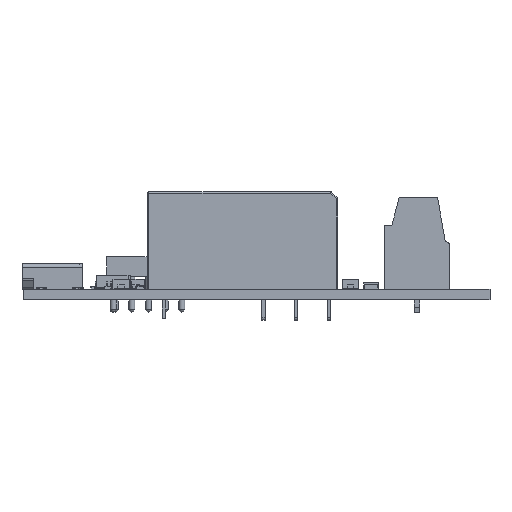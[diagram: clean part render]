
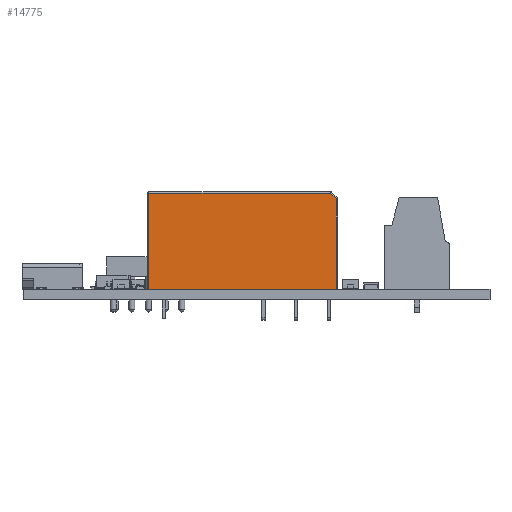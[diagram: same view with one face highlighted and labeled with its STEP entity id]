
A CAD part, front view. The second image highlights one B-rep face of the part: STEP entity #14775.
In plain terms, the highlighted planar face has unit normal (0, -1, 0) as drawn and (0, 1, 0) by its records, which use the part's own axes.
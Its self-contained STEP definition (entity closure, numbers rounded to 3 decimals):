
#14586 = VERTEX_POINT('',#14587);
#14587 = CARTESIAN_POINT('',(22.5,6.35,-0.5));
#14630 = VERTEX_POINT('',#14631);
#14631 = CARTESIAN_POINT('',(-6.1,6.35,-0.5));
#14638 = EDGE_CURVE('',#14586,#14630,#14639,.T.);
#14639 = LINE('',#14640,#14641);
#14640 = CARTESIAN_POINT('',(22.7,6.35,-0.5));
#14641 = VECTOR('',#14642,1.);
#14642 = DIRECTION('',(-1.,0.,0.));
#14775 = ADVANCED_FACE('',(#14776),#14809,.T.);
#14776 = FACE_BOUND('',#14777,.T.);
#14777 = EDGE_LOOP('',(#14778,#14786,#14794,#14802,#14808));
#14778 = ORIENTED_EDGE('',*,*,#14779,.T.);
#14779 = EDGE_CURVE('',#14630,#14780,#14782,.T.);
#14780 = VERTEX_POINT('',#14781);
#14781 = CARTESIAN_POINT('',(-6.1,6.35,13.817));
#14782 = LINE('',#14783,#14784);
#14783 = CARTESIAN_POINT('',(-6.1,6.35,-0.5));
#14784 = VECTOR('',#14785,1.);
#14785 = DIRECTION('',(0.,0.,1.));
#14786 = ORIENTED_EDGE('',*,*,#14787,.T.);
#14787 = EDGE_CURVE('',#14780,#14788,#14790,.T.);
#14788 = VERTEX_POINT('',#14789);
#14789 = CARTESIAN_POINT('',(-5.217,6.35,14.7));
#14790 = LINE('',#14791,#14792);
#14791 = CARTESIAN_POINT('',(1.141,6.35,21.059));
#14792 = VECTOR('',#14793,1.);
#14793 = DIRECTION('',(0.707,0.,0.707
    ));
#14794 = ORIENTED_EDGE('',*,*,#14795,.T.);
#14795 = EDGE_CURVE('',#14788,#14796,#14798,.T.);
#14796 = VERTEX_POINT('',#14797);
#14797 = CARTESIAN_POINT('',(22.5,6.35,14.7));
#14798 = LINE('',#14799,#14800);
#14799 = CARTESIAN_POINT('',(22.5,6.35,14.7));
#14800 = VECTOR('',#14801,1.);
#14801 = DIRECTION('',(1.,0.,0.));
#14802 = ORIENTED_EDGE('',*,*,#14803,.T.);
#14803 = EDGE_CURVE('',#14796,#14586,#14804,.T.);
#14804 = LINE('',#14805,#14806);
#14805 = CARTESIAN_POINT('',(22.5,6.35,-0.5));
#14806 = VECTOR('',#14807,1.);
#14807 = DIRECTION('',(0.,0.,-1.));
#14808 = ORIENTED_EDGE('',*,*,#14638,.T.);
#14809 = PLANE('',#14810);
#14810 = AXIS2_PLACEMENT_3D('',#14811,#14812,#14813);
#14811 = CARTESIAN_POINT('',(22.7,6.35,-0.5));
#14812 = DIRECTION('',(0.,1.,0.));
#14813 = DIRECTION('',(-1.,0.,0.));
